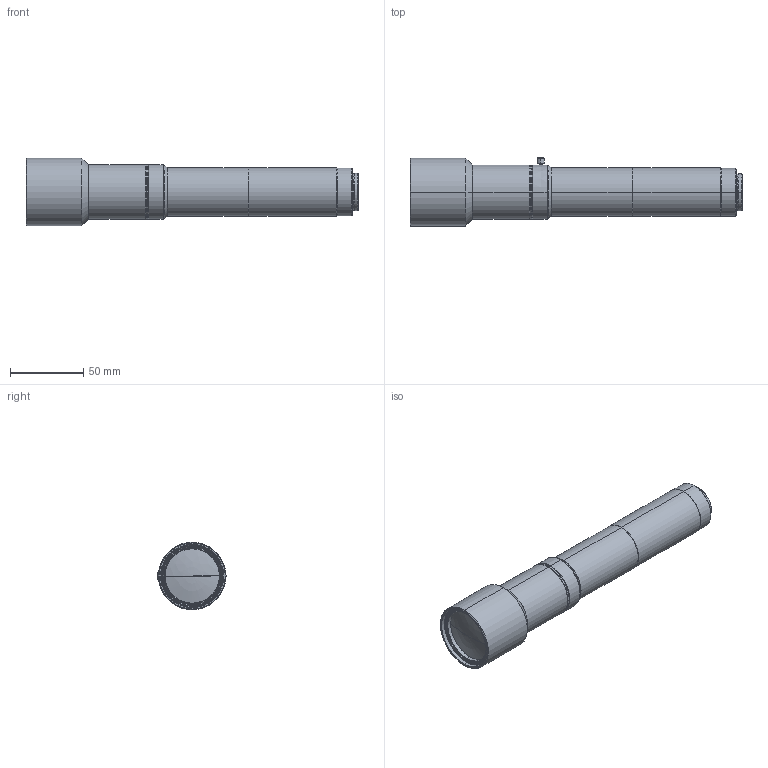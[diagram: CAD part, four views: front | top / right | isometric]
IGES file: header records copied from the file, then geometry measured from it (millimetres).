
Start section: SolidWorks IGES file using analytic representation for surfaces
Global section: file name: \\192.168.200.11\Development\4 ŠJ”­ŒŸ“¢\2020”N“x\D-2000207_THV4-110\10.3DŠOŠÏƒ‚ƒfƒ‹\VS-THV4-110_S.IGS; native system: SolidWorks 2018; preprocessor: SolidWorks 2018; author: tsuzuki_vst; date: 200519.082612; units: millimetre
Bounding box: 225.97 x 46.3 x 46 mm (x, y, z)
Surface area: 30214.6 mm2 (no closed solid volume)
Topology: 0 solids, 0 shells, 112 faces, 2114 edges, 2113 vertices
Faces by surface type: revolution 96, bspline 16
